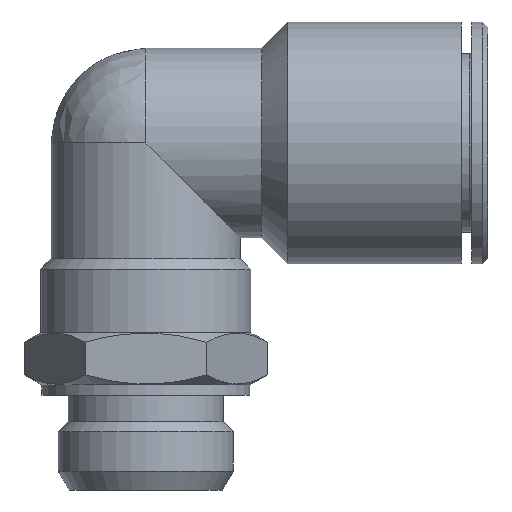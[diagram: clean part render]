
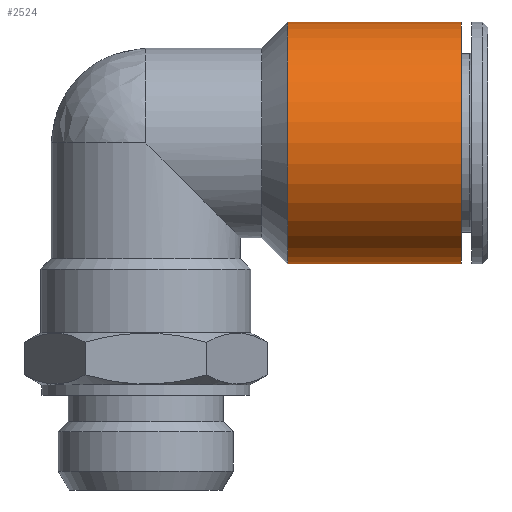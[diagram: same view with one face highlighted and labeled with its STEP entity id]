
A CAD part, front view. The second image highlights one B-rep face of the part: STEP entity #2524.
In plain terms, the highlighted cylindrical face has radius 11.5 mm (diameter 23 mm), a full revolution.
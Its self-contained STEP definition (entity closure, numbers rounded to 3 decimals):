
#909=ORIENTED_EDGE('',*,*,#1182,.T.);
#910=ORIENTED_EDGE('',*,*,#1181,.F.);
#1054=CIRCLE('',#2371,11.5);
#1055=CIRCLE('',#2373,11.5);
#1112=VERTEX_POINT('',#2165);
#1113=VERTEX_POINT('',#2168);
#1181=EDGE_CURVE('',#1112,#1112,#1054,.T.);
#1182=EDGE_CURVE('',#1113,#1113,#1055,.T.);
#1265=EDGE_LOOP('',(#909));
#1266=EDGE_LOOP('',(#910));
#1385=FACE_BOUND('',#1265,.T.);
#1386=FACE_BOUND('',#1266,.T.);
#1521=DIRECTION('',(0.,1.,0.));
#1522=DIRECTION('',(11.5,0.,0.));
#1523=DIRECTION('',(0.,1.,0.));
#1524=DIRECTION('',(1.,0.,0.));
#1525=DIRECTION('',(0.,1.,0.));
#1526=DIRECTION('',(11.5,0.,0.));
#2165=CARTESIAN_POINT('',(18.824,44.716,0.));
#2166=CARTESIAN_POINT('',(7.324,44.716,0.));
#2167=CARTESIAN_POINT('',(7.324,28.216,0.));
#2168=CARTESIAN_POINT('',(18.824,28.216,0.));
#2169=CARTESIAN_POINT('',(7.324,28.216,0.));
#2371=AXIS2_PLACEMENT_3D('',#2166,#1521,#1522);
#2372=AXIS2_PLACEMENT_3D('',#2167,#1523,#1524);
#2373=AXIS2_PLACEMENT_3D('',#2169,#1525,#1526);
#2498=CYLINDRICAL_SURFACE('',#2372,11.5);
#2524=ADVANCED_FACE('',(#1385,#1386),#2498,.T.);
